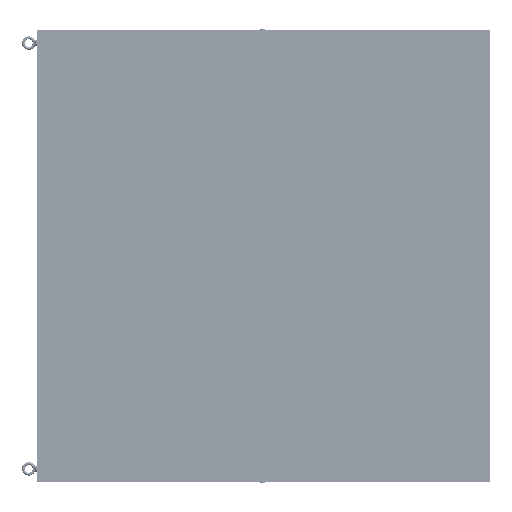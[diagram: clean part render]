
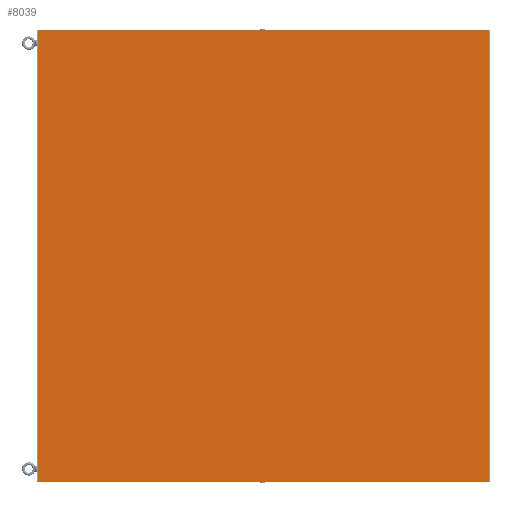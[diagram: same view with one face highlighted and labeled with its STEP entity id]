
A CAD part, front view. The second image highlights one B-rep face of the part: STEP entity #8039.
In plain terms, the highlighted planar face has unit normal (0, -1, 0).
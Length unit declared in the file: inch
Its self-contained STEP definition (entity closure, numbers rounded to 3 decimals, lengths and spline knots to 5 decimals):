
#7808=CARTESIAN_POINT('',(-35.314,0.,-35.314));
#7809=DIRECTION('',(0.,-1.,0.));
#7810=DIRECTION('',(-1.,0.,0.));
#7811=AXIS2_PLACEMENT_3D('',#7808,#7809,#7810);
#7816=DIRECTION('',(0.,0.,-1.));
#7817=VECTOR('',#7816,70.628);
#7818=CARTESIAN_POINT('',(-35.329,0.,35.314));
#7819=LINE('',#7818,#7817);
#7823=CARTESIAN_POINT('',(-35.314,0.,35.314));
#7824=DIRECTION('',(0.,-1.,0.));
#7825=DIRECTION('',(0.,0.,1.));
#7826=AXIS2_PLACEMENT_3D('',#7823,#7824,#7825);
#7831=CARTESIAN_POINT('',(35.314,0.,35.314));
#7832=DIRECTION('',(0.,-1.,0.));
#7833=DIRECTION('',(1.,0.,0.));
#7834=AXIS2_PLACEMENT_3D('',#7831,#7832,#7833);
#7839=CARTESIAN_POINT('',(35.314,0.,-35.314));
#7840=DIRECTION('',(0.,-1.,0.));
#7841=DIRECTION('',(0.,0.,-1.));
#7842=AXIS2_PLACEMENT_3D('',#7839,#7840,#7841);
#7854=DIRECTION('',(1.,0.,0.));
#7855=VECTOR('',#7854,70.628);
#7856=CARTESIAN_POINT('',(-35.314,0.,-35.329));
#7857=LINE('',#7856,#7855);
#7896=DIRECTION('',(0.,0.,-1.));
#7897=VECTOR('',#7896,70.628);
#7898=CARTESIAN_POINT('',(35.329,0.,35.314));
#7899=LINE('',#7898,#7897);
#7924=DIRECTION('',(1.,0.,0.));
#7925=VECTOR('',#7924,70.628);
#7926=CARTESIAN_POINT('',(-35.314,0.,35.329));
#7927=LINE('',#7926,#7925);
#7984=CARTESIAN_POINT('',(-35.329,0.,-35.314));
#7985=CARTESIAN_POINT('',(-35.314,0.,-35.329));
#7986=VERTEX_POINT('',#7984);
#7987=VERTEX_POINT('',#7985);
#7992=CARTESIAN_POINT('',(-35.314,0.,35.329));
#7993=CARTESIAN_POINT('',(-35.329,0.,35.314));
#7994=VERTEX_POINT('',#7992);
#7995=VERTEX_POINT('',#7993);
#8000=CARTESIAN_POINT('',(35.329,0.,35.314));
#8001=CARTESIAN_POINT('',(35.314,0.,35.329));
#8002=VERTEX_POINT('',#8000);
#8003=VERTEX_POINT('',#8001);
#8008=CARTESIAN_POINT('',(35.314,0.,-35.329));
#8009=CARTESIAN_POINT('',(35.329,0.,-35.314));
#8010=VERTEX_POINT('',#8008);
#8011=VERTEX_POINT('',#8009);
#8016=CARTESIAN_POINT('',(-35.329,0.,35.329));
#8017=DIRECTION('',(0.,-1.,0.));
#8018=DIRECTION('',(1.,0.,0.));
#8019=AXIS2_PLACEMENT_3D('',#8016,#8017,#8018);
#8020=PLANE('',#8019);
#8022=ORIENTED_EDGE('',*,*,#8021,.F.);
#8024=ORIENTED_EDGE('',*,*,#8023,.F.);
#8026=ORIENTED_EDGE('',*,*,#8025,.F.);
#8028=ORIENTED_EDGE('',*,*,#8027,.T.);
#8030=ORIENTED_EDGE('',*,*,#8029,.F.);
#8032=ORIENTED_EDGE('',*,*,#8031,.T.);
#8034=ORIENTED_EDGE('',*,*,#8033,.F.);
#8036=ORIENTED_EDGE('',*,*,#8035,.F.);
#8037=EDGE_LOOP('',(#8022,#8024,#8026,#8028,#8030,#8032,#8034,#8036));
#8038=FACE_OUTER_BOUND('',#8037,.F.);
#7812=CIRCLE('',#7811,0.015);
#7827=CIRCLE('',#7826,0.015);
#7835=CIRCLE('',#7834,0.015);
#7843=CIRCLE('',#7842,0.015);
#8021=EDGE_CURVE('',#7986,#7987,#7812,.T.);
#8023=EDGE_CURVE('',#7995,#7986,#7819,.T.);
#8025=EDGE_CURVE('',#7994,#7995,#7827,.T.);
#8027=EDGE_CURVE('',#7994,#8003,#7927,.T.);
#8029=EDGE_CURVE('',#8002,#8003,#7835,.T.);
#8031=EDGE_CURVE('',#8002,#8011,#7899,.T.);
#8033=EDGE_CURVE('',#8010,#8011,#7843,.T.);
#8035=EDGE_CURVE('',#7987,#8010,#7857,.T.);
#8039=ADVANCED_FACE('',(#8038),#8020,.T.);
